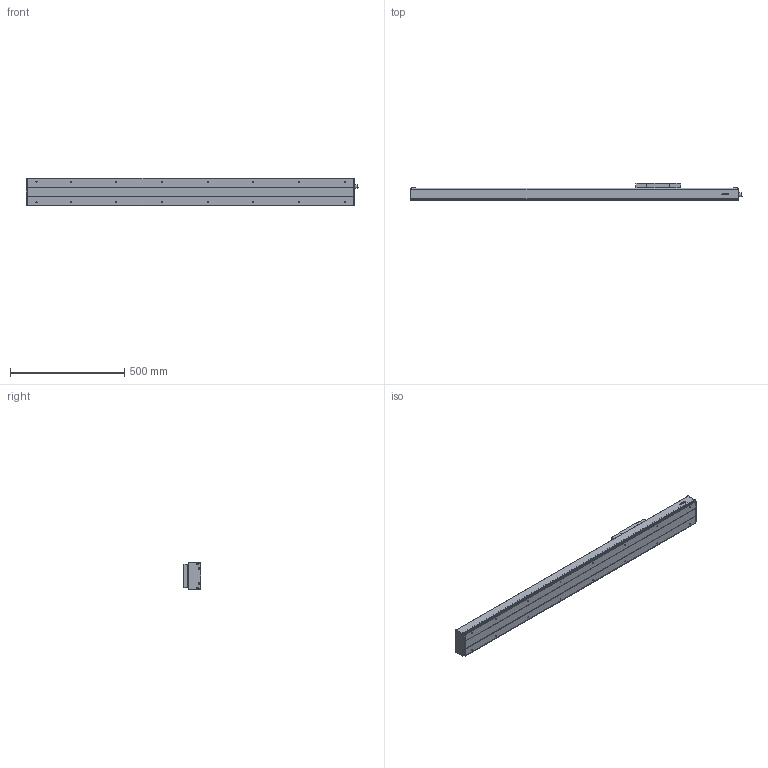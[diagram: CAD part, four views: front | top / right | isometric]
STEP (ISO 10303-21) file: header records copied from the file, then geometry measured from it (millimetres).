
FILE_DESCRIPTION(/* description */ (''),/* implementation_level */ '2;1');
FILE_NAME(/* name */ 'D:\混合母檔20191031\混和母檔\混和母檔\bin\Debug\Download\3D\KS120-10C-950AFI\KS120-10C-950AFI.stp',/* time_stamp */ '2019-11-04T15:18:30+08:00',/* author */ ('user'),/* organization */ (''),/* preprocessor_version */ 'ST-DEVELOPER v16.13',/* originating_system */ 'Autodesk Inventor 2018',/* authorisation */ '');
FILE_SCHEMA (('AUTOMOTIVE_DESIGN { 1 0 10303 214 3 1 1 }'));
Length unit declared in the file: millimetre
Products named in the file (3): KS120-10C-950AFI; KS120-FI; KS120-SL
Assembly tree (2 placements, depth 2):
  KS120-10C-950AFI
    KS120-FI
    KS120-SL
Bounding box: 1454.5 x 77 x 120 mm (x, y, z)
Volume: 3356889.7 mm3; surface area: 1125152.8 mm2
Topology: 4 solids, 11 shells, 1003 faces, 2578 edges, 1665 vertices
Faces by surface type: plane 575, cylinder 190, bspline 136, cone 84, torus 14, sphere 4
Full cylindrical faces by diameter (mm): 2.459 x6, 3.242 x4, 4 x32, 4.3 x4, 4.5 x12, 4.917 x16, 6 x6, 7 x4, 8 x9, 8.4 x12, 10.437 x1, 12 x2, 14 x1, 15 x1, 15.538 x1, 19 x1, 28 x1, 30 x1
Entity records: 33194 total; most frequent: CARTESIAN_POINT 10644, ORIENTED_EDGE 4580, DIRECTION 4202, EDGE_CURVE 2288, VERTEX_POINT 1579, LINE 1534, VECTOR 1534, AXIS2_PLACEMENT_3D 1334
